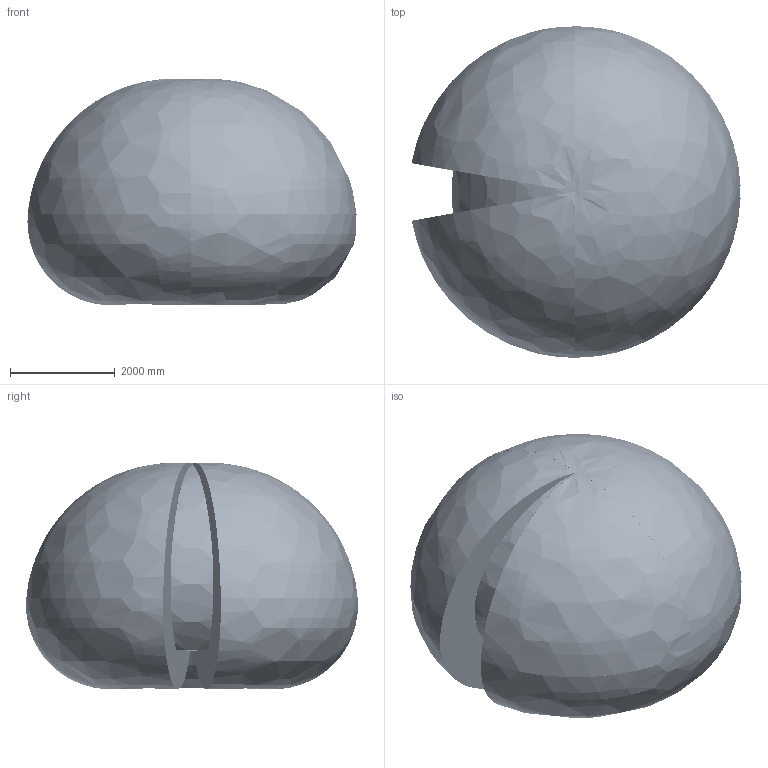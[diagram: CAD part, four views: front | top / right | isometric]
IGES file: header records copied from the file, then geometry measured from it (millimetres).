
Start section: SolidWorks IGES file using analytic representation for surfaces
Global section: file name: C:\Data\SAP_DOC\IRB6740_lightweight\6740\IRB6740-LID-MH_220kg-320_OC_01_SW_J\IRB6740-LID-MH_220kg-320_OC_01_IGES_J\IRB6740-LID-MH_220kg-320_OC_01_ASM_CAD.igs; native system: SolidWorks 2024; preprocessor: SolidWorks 2024; author: SEJAOLS6; date: 260513.070702; units: millimetre
Bounding box: 6294.02 x 6350.31 x 4328.25 mm (x, y, z)
Surface area: 151546340 mm2 (no closed solid volume)
Topology: 0 solids, 0 shells, 10197 faces, 157372 edges, 157225 vertices
Faces by surface type: bspline 6033, revolution 4164
